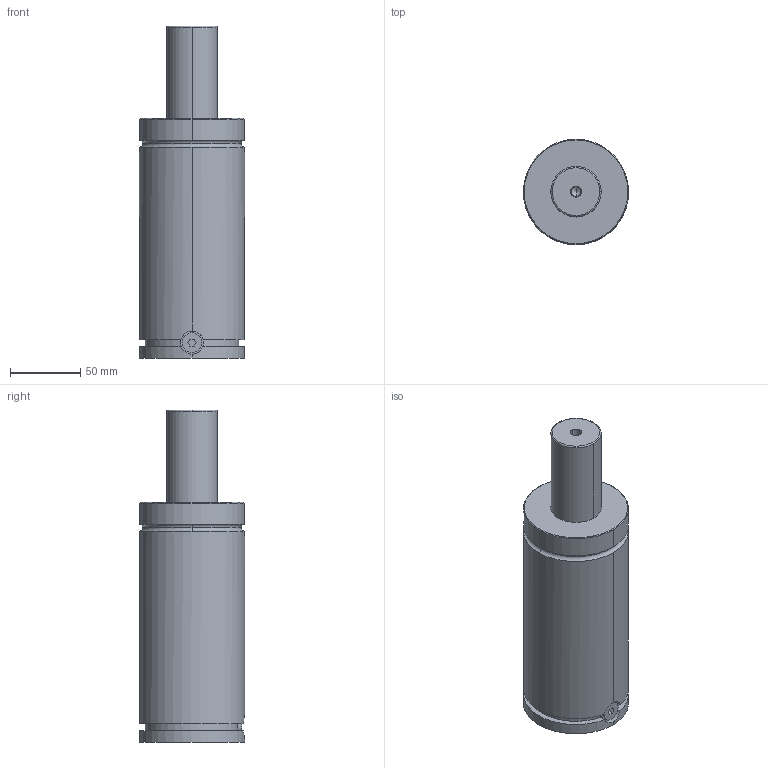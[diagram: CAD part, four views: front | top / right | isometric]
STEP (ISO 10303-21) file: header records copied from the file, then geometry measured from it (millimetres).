
FILE_DESCRIPTION( ( '' ), '1' );
FILE_NAME( 'W:/LIBRERIA TECAPRES®/DIBUJOS STRACK 2012/TPS/TPS 1500/TPS 1500x63.stp', '2012-05-15T13:09:12', ( '' ), ( '' ), ' ', ' ', ' ' );
FILE_SCHEMA( ( 'automotive_design' ) );
Length unit declared in the file: millimetre
Products named in the file (3): 1; 2; 3
Bounding box: 75 x 75 x 237 mm (x, y, z)
Volume: 748039.6 mm3; surface area: 70685 mm2
Topology: 3 solids, 3 shells, 68 faces, 152 edges, 98 vertices
Faces by surface type: cylinder 32, plane 24, torus 6, cone 6
Entity records: 3901 total; most frequent: CARTESIAN_POINT 473, DIRECTION 367, STYLED_ITEM 319, PRESENTATION_STYLE_ASSIGNMENT 319, COLOUR_RGB 319, ORIENTED_EDGE 300, AXIS2_PLACEMENT_3D 154, EDGE_CURVE 150
